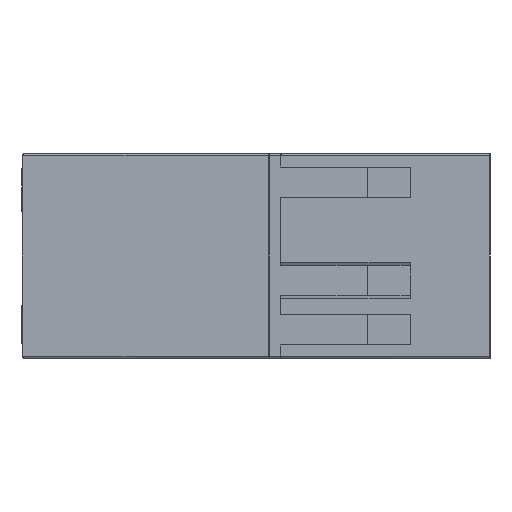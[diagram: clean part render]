
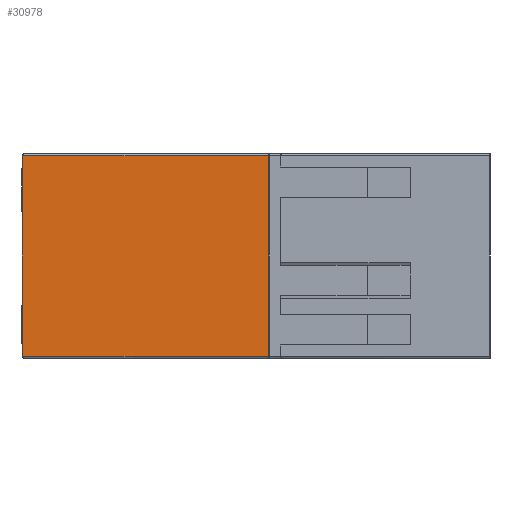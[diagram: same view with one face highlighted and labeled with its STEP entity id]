
A CAD part, left-side view. The second image highlights one B-rep face of the part: STEP entity #30978.
In plain terms, the highlighted planar face has unit normal (-1, 0, 0).
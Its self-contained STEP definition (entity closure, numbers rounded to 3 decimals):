
#211 = CARTESIAN_POINT ( 'NONE',  ( -6.198, -11.782, -10.95 ) ) ;
#286 = CARTESIAN_POINT ( 'NONE',  ( -6.198, -4.982, -10.95 ) ) ;
#1116 = VECTOR ( 'NONE', #20160, 1000. ) ;
#1336 = CARTESIAN_POINT ( 'NONE',  ( -6.198, -5.282, 10.65 ) ) ;
#1830 = DIRECTION ( 'NONE',  ( 0., 1., 0. ) ) ;
#2202 = CARTESIAN_POINT ( 'NONE',  ( -6.198, 27.018, 13.45 ) ) ;
#3016 = DIRECTION ( 'NONE',  ( 0., 1., 0. ) ) ;
#4046 = DIRECTION ( 'NONE',  ( 0., 1., 0. ) ) ;
#6569 = CIRCLE ( 'NONE', #17140, 0.3 ) ;
#7041 = CARTESIAN_POINT ( 'NONE',  ( -6.198, 27.118, 13.45 ) ) ;
#7080 = CARTESIAN_POINT ( 'NONE',  ( -6.198, -5.282, -10.65 ) ) ;
#7312 = LINE ( 'NONE', #13355, #9488 ) ;
#7563 = EDGE_CURVE ( 'NONE', #10426, #22496, #20068, .T. ) ;
#7629 = CARTESIAN_POINT ( 'NONE',  ( -6.198, -11.782, 10.95 ) ) ;
#8107 = ORIENTED_EDGE ( 'NONE', *, *, #8522, .T. ) ;
#8298 = CARTESIAN_POINT ( 'NONE',  ( -6.198, -11.782, -10.95 ) ) ;
#8522 = EDGE_CURVE ( 'NONE', #18045, #22496, #27840, .T. ) ;
#9488 = VECTOR ( 'NONE', #15681, 1000. ) ;
#10222 = EDGE_CURVE ( 'NONE', #22315, #17058, #29618, .T. ) ;
#10426 = VERTEX_POINT ( 'NONE', #7629 ) ;
#10756 = CARTESIAN_POINT ( 'NONE',  ( -6.198, 27.018, -13.05 ) ) ;
#11403 = ORIENTED_EDGE ( 'NONE', *, *, #34449, .T. ) ;
#11485 = CARTESIAN_POINT ( 'NONE',  ( -6.198, -4.982, -10.65 ) ) ;
#12484 = EDGE_CURVE ( 'NONE', #34265, #34825, #32538, .T. ) ;
#12889 = CARTESIAN_POINT ( 'NONE',  ( -6.198, 27.018, 13.05 ) ) ;
#13355 = CARTESIAN_POINT ( 'NONE',  ( -6.198, -4.982, 13.45 ) ) ;
#13382 = EDGE_LOOP ( 'NONE', ( #30934, #25423, #11403, #25296, #34991, #14170, #26114, #14612, #8107, #14223 ) ) ;
#14170 = ORIENTED_EDGE ( 'NONE', *, *, #10222, .T. ) ;
#14223 = ORIENTED_EDGE ( 'NONE', *, *, #7563, .F. ) ;
#14260 = VECTOR ( 'NONE', #1830, 1000. ) ;
#14612 = ORIENTED_EDGE ( 'NONE', *, *, #16903, .F. ) ;
#14663 = DIRECTION ( 'NONE',  ( 0., -1., 0. ) ) ;
#14832 = CARTESIAN_POINT ( 'NONE',  ( -6.198, -11.782, 13.05 ) ) ;
#15681 = DIRECTION ( 'NONE',  ( 0., 0., -1. ) ) ;
#15697 = EDGE_CURVE ( 'NONE', #22315, #34825, #28899, .T. ) ;
#15996 = PLANE ( 'NONE',  #25139 ) ;
#16318 = CARTESIAN_POINT ( 'NONE',  ( -6.198, -5.282, 10.95 ) ) ;
#16903 = EDGE_CURVE ( 'NONE', #18045, #23504, #7312, .T. ) ;
#17058 = VERTEX_POINT ( 'NONE', #29249 ) ;
#17140 = AXIS2_PLACEMENT_3D ( 'NONE', #7080, #21678, #36064 ) ;
#18008 = AXIS2_PLACEMENT_3D ( 'NONE', #1336, #27547, #4046 ) ;
#18045 = VERTEX_POINT ( 'NONE', #22343 ) ;
#18910 = DIRECTION ( 'NONE',  ( 0., 1., 0. ) ) ;
#20068 = LINE ( 'NONE', #20248, #14260 ) ;
#20160 = DIRECTION ( 'NONE',  ( 0., 0., -1. ) ) ;
#20248 = CARTESIAN_POINT ( 'NONE',  ( -6.198, -4.982, 10.95 ) ) ;
#20316 = DIRECTION ( 'NONE',  ( 0., 0., 1. ) ) ;
#20500 = CARTESIAN_POINT ( 'NONE',  ( -6.198, 27.118, -13.05 ) ) ;
#20512 = LINE ( 'NONE', #35472, #30181 ) ;
#20940 = VERTEX_POINT ( 'NONE', #14832 ) ;
#21173 = VECTOR ( 'NONE', #3016, 1000. ) ;
#21678 = DIRECTION ( 'NONE',  ( 1., 0., 0. ) ) ;
#22315 = VERTEX_POINT ( 'NONE', #211 ) ;
#22343 = CARTESIAN_POINT ( 'NONE',  ( -6.198, -4.982, 10.65 ) ) ;
#22496 = VERTEX_POINT ( 'NONE', #16318 ) ;
#22636 = EDGE_CURVE ( 'NONE', #20940, #30908, #34723, .T. ) ;
#22882 = EDGE_CURVE ( 'NONE', #10426, #20940, #20512, .T. ) ;
#22989 = EDGE_CURVE ( 'NONE', #17058, #23504, #6569, .T. ) ;
#22998 = DIRECTION ( 'NONE',  ( 0., 0., -1. ) ) ;
#23428 = VECTOR ( 'NONE', #34520, 1000. ) ;
#23504 = VERTEX_POINT ( 'NONE', #11485 ) ;
#25139 = AXIS2_PLACEMENT_3D ( 'NONE', #7041, #28222, #18910 ) ;
#25296 = ORIENTED_EDGE ( 'NONE', *, *, #12484, .T. ) ;
#25423 = ORIENTED_EDGE ( 'NONE', *, *, #22636, .T. ) ;
#26114 = ORIENTED_EDGE ( 'NONE', *, *, #22989, .T. ) ;
#27547 = DIRECTION ( 'NONE',  ( 1., 0., 0. ) ) ;
#27840 = CIRCLE ( 'NONE', #18008, 0.3 ) ;
#28222 = DIRECTION ( 'NONE',  ( 1., 0., 0. ) ) ;
#28899 = LINE ( 'NONE', #8298, #1116 ) ;
#29249 = CARTESIAN_POINT ( 'NONE',  ( -6.198, -5.282, -10.95 ) ) ;
#29618 = LINE ( 'NONE', #286, #21173 ) ;
#29881 = CARTESIAN_POINT ( 'NONE',  ( -6.198, -11.782, -13.05 ) ) ;
#30181 = VECTOR ( 'NONE', #20316, 1000. ) ;
#30908 = VERTEX_POINT ( 'NONE', #12889 ) ;
#30934 = ORIENTED_EDGE ( 'NONE', *, *, #22882, .T. ) ;
#30978 = ADVANCED_FACE ( 'NONE', ( #33664 ), #15996, .F. ) ;
#31407 = CARTESIAN_POINT ( 'NONE',  ( -6.198, 27.018, 13.05 ) ) ;
#32538 = LINE ( 'NONE', #20500, #36804 ) ;
#33664 = FACE_OUTER_BOUND ( 'NONE', #13382, .T. ) ;
#34265 = VERTEX_POINT ( 'NONE', #10756 ) ;
#34449 = EDGE_CURVE ( 'NONE', #30908, #34265, #37771, .T. ) ;
#34520 = DIRECTION ( 'NONE',  ( 0., 1., 0. ) ) ;
#34723 = LINE ( 'NONE', #31407, #23428 ) ;
#34825 = VERTEX_POINT ( 'NONE', #29881 ) ;
#34991 = ORIENTED_EDGE ( 'NONE', *, *, #15697, .F. ) ;
#35472 = CARTESIAN_POINT ( 'NONE',  ( -6.198, -11.782, 10.95 ) ) ;
#36064 = DIRECTION ( 'NONE',  ( 0., 1., 0. ) ) ;
#36804 = VECTOR ( 'NONE', #14663, 1000. ) ;
#37771 = LINE ( 'NONE', #2202, #38274 ) ;
#38274 = VECTOR ( 'NONE', #22998, 1000. ) ;
